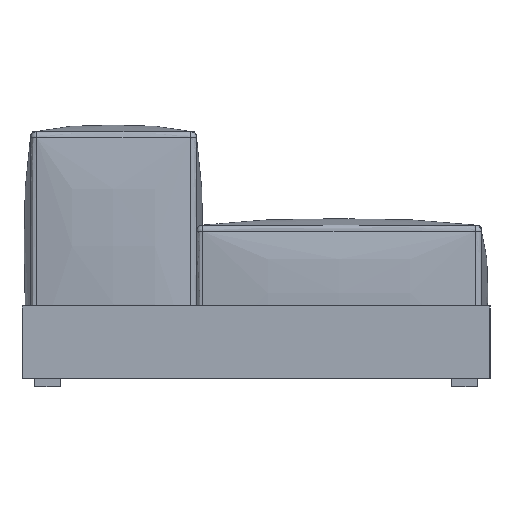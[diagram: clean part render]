
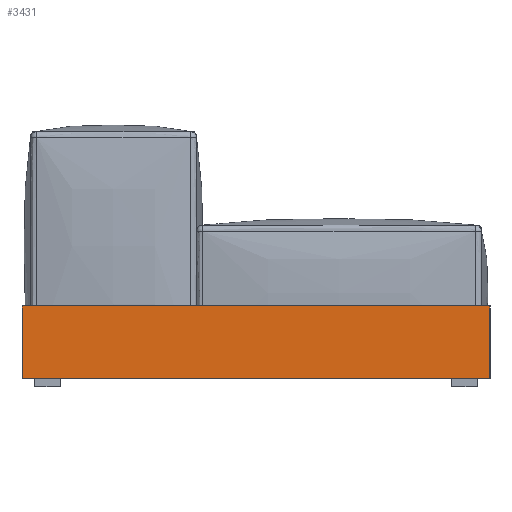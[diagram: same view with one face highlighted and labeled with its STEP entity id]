
A CAD part, left-side view. The second image highlights one B-rep face of the part: STEP entity #3431.
In plain terms, the highlighted planar face has unit normal (-1, 0, 0).
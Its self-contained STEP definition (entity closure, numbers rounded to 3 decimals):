
#122=PLANE('',#3847);
#260=LINE('',#14310,#482);
#261=LINE('',#14312,#483);
#262=LINE('',#14314,#484);
#263=LINE('',#14315,#485);
#482=VECTOR('',#4479,10.);
#483=VECTOR('',#4480,10.);
#484=VECTOR('',#4481,10.);
#485=VECTOR('',#4482,10.);
#1023=FACE_OUTER_BOUND('',#1275,.T.);
#1275=EDGE_LOOP('',(#2879,#2880,#2881,#2882));
#1663=VERTEX_POINT('',#14308);
#1664=VERTEX_POINT('',#14309);
#1665=VERTEX_POINT('',#14311);
#1666=VERTEX_POINT('',#14313);
#2087=EDGE_CURVE('',#1663,#1664,#260,.T.);
#2088=EDGE_CURVE('',#1663,#1665,#261,.T.);
#2089=EDGE_CURVE('',#1666,#1665,#262,.T.);
#2090=EDGE_CURVE('',#1664,#1666,#263,.T.);
#2879=ORIENTED_EDGE('',*,*,#2087,.F.);
#2880=ORIENTED_EDGE('',*,*,#2088,.T.);
#2881=ORIENTED_EDGE('',*,*,#2089,.F.);
#2882=ORIENTED_EDGE('',*,*,#2090,.F.);
#3431=ADVANCED_FACE('',(#1023),#122,.T.);
#3847=AXIS2_PLACEMENT_3D('',#14307,#4477,#4478);
#4477=DIRECTION('center_axis',(-1.,0.,0.));
#4478=DIRECTION('ref_axis',(0.,-1.,0.));
#4479=DIRECTION('',(0.,1.,0.));
#4480=DIRECTION('',(0.,0.,1.));
#4481=DIRECTION('',(0.,-1.,0.));
#4482=DIRECTION('',(0.,0.,1.));
#14307=CARTESIAN_POINT('Origin',(-1100.,550.,0.));
#14308=CARTESIAN_POINT('',(-1100.,-550.,0.));
#14309=CARTESIAN_POINT('',(-1100.,550.,0.));
#14310=CARTESIAN_POINT('',(-1100.,-550.,0.));
#14311=CARTESIAN_POINT('',(-1100.,-550.,170.));
#14312=CARTESIAN_POINT('',(-1100.,-550.,0.));
#14313=CARTESIAN_POINT('',(-1100.,550.,170.));
#14314=CARTESIAN_POINT('',(-1100.,-550.,170.));
#14315=CARTESIAN_POINT('',(-1100.,550.,0.));
